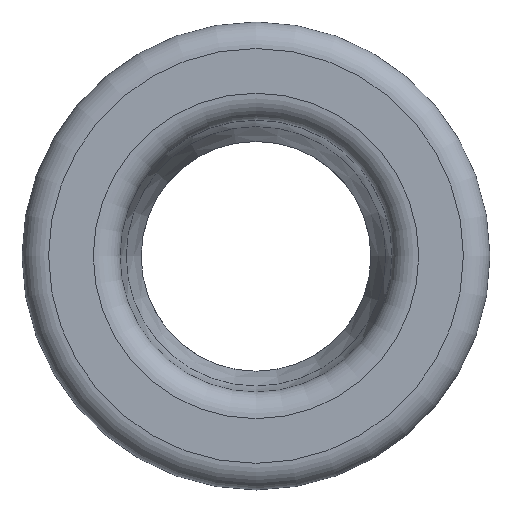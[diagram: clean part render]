
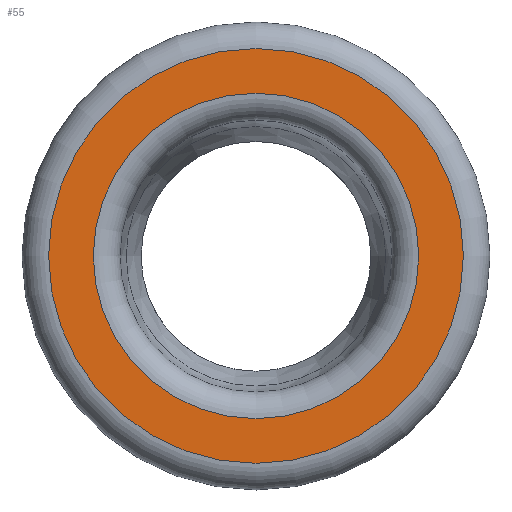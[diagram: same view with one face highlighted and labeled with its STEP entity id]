
A CAD part, top view. The second image highlights one B-rep face of the part: STEP entity #55.
In plain terms, the highlighted planar face has unit normal (0, 0, 1).
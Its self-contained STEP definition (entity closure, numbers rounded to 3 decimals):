
#55 = ADVANCED_FACE( '', ( #124, #125 ), #126, .F. );
#124 = FACE_OUTER_BOUND( '', #215, .T. );
#125 = FACE_BOUND( '', #216, .T. );
#126 = PLANE( '', #217 );
#215 = EDGE_LOOP( '', ( #344 ) );
#216 = EDGE_LOOP( '', ( #345 ) );
#217 = AXIS2_PLACEMENT_3D( '', #346, #347, #348 );
#344 = ORIENTED_EDGE( '', *, *, #446, .F. );
#345 = ORIENTED_EDGE( '', *, *, #451, .T. );
#346 = CARTESIAN_POINT( '', ( 0., 0., 0. ) );
#347 = DIRECTION( '', ( 0., 0., -1. ) );
#348 = DIRECTION( '', ( -1., 0., 0. ) );
#446 = EDGE_CURVE( '', #494, #494, #495, .T. );
#451 = EDGE_CURVE( '', #502, #502, #503, .T. );
#494 = VERTEX_POINT( '', #557 );
#495 = CIRCLE( '', #558, 19.5 );
#502 = VERTEX_POINT( '', #565 );
#503 = CIRCLE( '', #566, 15.3 );
#557 = CARTESIAN_POINT( '', ( -19.5, 0., 0. ) );
#558 = AXIS2_PLACEMENT_3D( '', #622, #623, #624 );
#565 = CARTESIAN_POINT( '', ( -15.3, 0., 0. ) );
#566 = AXIS2_PLACEMENT_3D( '', #631, #632, #633 );
#622 = CARTESIAN_POINT( '', ( 0., 0., 0. ) );
#623 = DIRECTION( '', ( 0., 0., -1. ) );
#624 = DIRECTION( '', ( -1., 0., 0. ) );
#631 = CARTESIAN_POINT( '', ( 0., 0., 0. ) );
#632 = DIRECTION( '', ( 0., 0., -1. ) );
#633 = DIRECTION( '', ( -1., 0., 0. ) );
